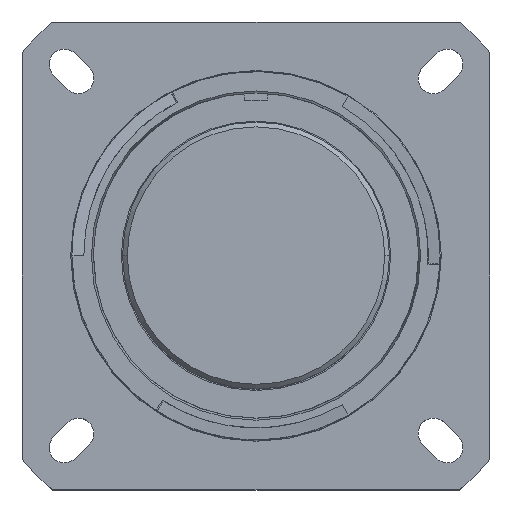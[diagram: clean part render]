
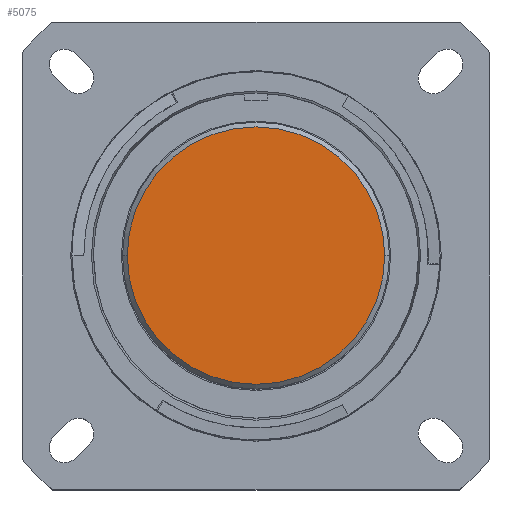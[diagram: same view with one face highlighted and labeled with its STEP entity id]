
A CAD part, top view. The second image highlights one B-rep face of the part: STEP entity #5075.
In plain terms, the highlighted planar face has unit normal (0, 0, 1).
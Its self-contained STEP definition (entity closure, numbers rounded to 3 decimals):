
#123 = ORIENTED_EDGE ( 'NONE', *, *, #2781, .T. ) ;
#223 = DIRECTION ( 'NONE',  ( 1., 0., 0. ) ) ;
#232 = DIRECTION ( 'NONE',  ( 0., 0., 1. ) ) ;
#250 = FACE_OUTER_BOUND ( 'NONE', #1795, .T. ) ;
#295 = DIRECTION ( 'NONE',  ( 0., 0., 1. ) ) ;
#467 = CARTESIAN_POINT ( 'NONE',  ( -13.767, 0., -0.457 ) ) ;
#840 = AXIS2_PLACEMENT_3D ( 'NONE', #5820, #232, #2105 ) ;
#1615 = EDGE_CURVE ( 'NONE', #4805, #1699, #5541, .T. ) ;
#1699 = VERTEX_POINT ( 'NONE', #3545 ) ;
#1795 = EDGE_LOOP ( 'NONE', ( #3243, #123 ) ) ;
#2105 = DIRECTION ( 'NONE',  ( 1., 0., 0. ) ) ;
#2699 = DIRECTION ( 'NONE',  ( 1., 0., 0. ) ) ;
#2738 = CIRCLE ( 'NONE', #3542, 13.767 ) ;
#2781 = EDGE_CURVE ( 'NONE', #1699, #4805, #2738, .T. ) ;
#3065 = CARTESIAN_POINT ( 'NONE',  ( 0., 0., -0.457 ) ) ;
#3243 = ORIENTED_EDGE ( 'NONE', *, *, #1615, .T. ) ;
#3542 = AXIS2_PLACEMENT_3D ( 'NONE', #6004, #295, #2699 ) ;
#3545 = CARTESIAN_POINT ( 'NONE',  ( 13.767, 0., -0.457 ) ) ;
#3979 = DIRECTION ( 'NONE',  ( 0., 0., 1. ) ) ;
#4805 = VERTEX_POINT ( 'NONE', #467 ) ;
#4938 = PLANE ( 'NONE',  #5392 ) ;
#5075 = ADVANCED_FACE ( 'NONE', ( #250 ), #4938, .T. ) ;
#5392 = AXIS2_PLACEMENT_3D ( 'NONE', #3065, #3979, #223 ) ;
#5541 = CIRCLE ( 'NONE', #840, 13.767 ) ;
#5820 = CARTESIAN_POINT ( 'NONE',  ( 0., 0., -0.457 ) ) ;
#6004 = CARTESIAN_POINT ( 'NONE',  ( 0., 0., -0.457 ) ) ;
